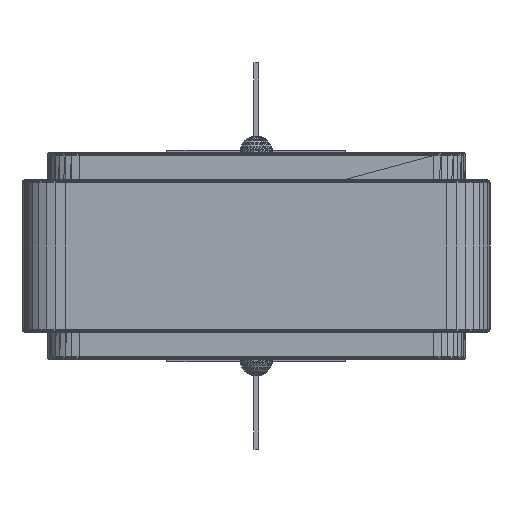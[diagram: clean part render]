
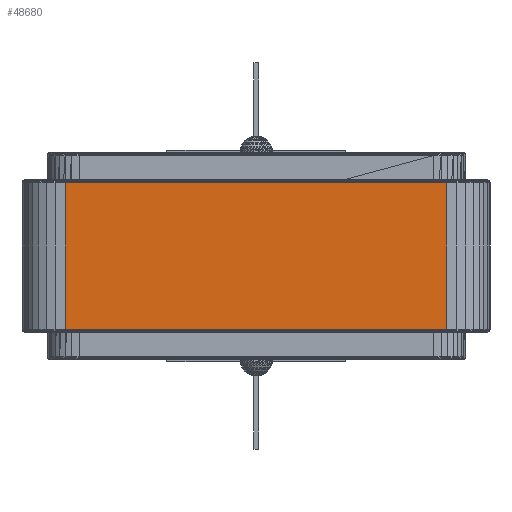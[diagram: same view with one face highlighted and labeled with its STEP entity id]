
A CAD part, left-side view. The second image highlights one B-rep face of the part: STEP entity #48680.
In plain terms, the highlighted planar face has unit normal (-1, 0, 0).
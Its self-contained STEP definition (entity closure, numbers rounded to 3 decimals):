
#2242 = VERTEX_POINT('',#2243);
#2243 = CARTESIAN_POINT('',(0.,86.245,35.858));
#3540 = VERTEX_POINT('',#3541);
#3541 = CARTESIAN_POINT('',(0.,8.755,35.858));
#9055 = VERTEX_POINT('',#9056);
#9056 = CARTESIAN_POINT('',(0.,86.245,6.142));
#13447 = VERTEX_POINT('',#13448);
#13448 = CARTESIAN_POINT('',(0.,8.755,6.142));
#48609 = EDGE_CURVE('',#9055,#2242,#48610,.T.);
#48610 = LINE('',#48611,#48612);
#48611 = CARTESIAN_POINT('',(0.,86.245,6.142));
#48612 = VECTOR('',#48613,1.);
#48613 = DIRECTION('',(0.,0.,1.));
#48680 = ADVANCED_FACE('',(#48681),#48702,.T.);
#48681 = FACE_BOUND('',#48682,.T.);
#48682 = EDGE_LOOP('',(#48683,#48684,#48690,#48696));
#48683 = ORIENTED_EDGE('',*,*,#48609,.F.);
#48684 = ORIENTED_EDGE('',*,*,#48685,.T.);
#48685 = EDGE_CURVE('',#9055,#13447,#48686,.T.);
#48686 = LINE('',#48687,#48688);
#48687 = CARTESIAN_POINT('',(0.,86.245,6.142));
#48688 = VECTOR('',#48689,1.);
#48689 = DIRECTION('',(0.,-1.,0.));
#48690 = ORIENTED_EDGE('',*,*,#48691,.T.);
#48691 = EDGE_CURVE('',#13447,#3540,#48692,.T.);
#48692 = LINE('',#48693,#48694);
#48693 = CARTESIAN_POINT('',(0.,8.755,6.142));
#48694 = VECTOR('',#48695,1.);
#48695 = DIRECTION('',(0.,0.,1.));
#48696 = ORIENTED_EDGE('',*,*,#48697,.T.);
#48697 = EDGE_CURVE('',#3540,#2242,#48698,.T.);
#48698 = LINE('',#48699,#48700);
#48699 = CARTESIAN_POINT('',(0.,8.755,35.858));
#48700 = VECTOR('',#48701,1.);
#48701 = DIRECTION('',(0.,1.,0.));
#48702 = PLANE('',#48703);
#48703 = AXIS2_PLACEMENT_3D('',#48704,#48705,#48706);
#48704 = CARTESIAN_POINT('',(0.,47.5,21.));
#48705 = DIRECTION('',(-1.,-0.,-0.));
#48706 = DIRECTION('',(0.,0.,-1.));
